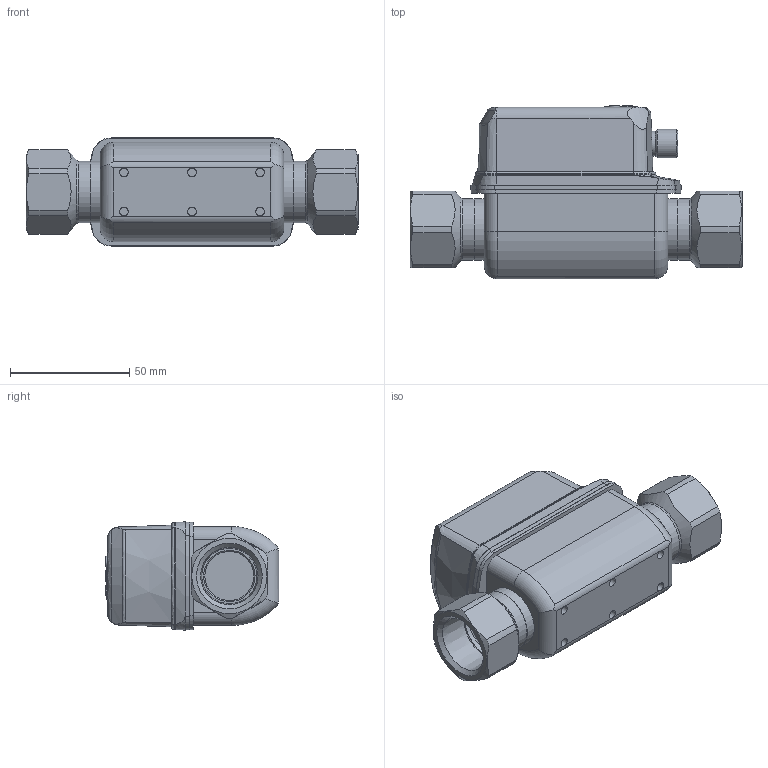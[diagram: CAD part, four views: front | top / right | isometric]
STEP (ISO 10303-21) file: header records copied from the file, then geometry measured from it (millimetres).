
FILE_DESCRIPTION(/* description */ ('STEP AP203'),/* implementation_level */ '2;1');
FILE_NAME(/* name */ 'SV7614',/* time_stamp */ '2023-06-20T13:33:12+02:00',/* author */ ('License CC BY-ND 4.0'),/* organization */ ('CADENAS'),/* preprocessor_version */ 'ST-DEVELOPER v19.3',/* originating_system */ 'PARTsolutions',/* authorisation */ ' ');
FILE_SCHEMA (('CONFIG_CONTROL_DESIGN'));
Length unit declared in the file: millimetre
Products named in the file (1): SV7614
Bounding box: 139 x 72.7 x 45.28 mm (x, y, z)
Volume: 235878.9 mm3; surface area: 33978.4 mm2
Topology: 1 solids, 1 shells, 257 faces, 616 edges, 391 vertices
Faces by surface type: cylinder 96, plane 90, cone 39, torus 29, sphere 3
Full cylindrical faces by diameter (mm): 0.8 x1, 2.2 x1, 3.6 x6, 4.45 x3, 8.45 x1, 10.5 x1, 12 x1, 20.5 x2, 25.8 x4, 26.8 x2
Entity records: 9136 total; most frequent: CARTESIAN_POINT 1571, DIRECTION 1238, ORIENTED_EDGE 1100, EDGE_CURVE 550, AXIS2_PLACEMENT_3D 517, VERTEX_POINT 380, EDGE_LOOP 342, FACE_BOUND 342
